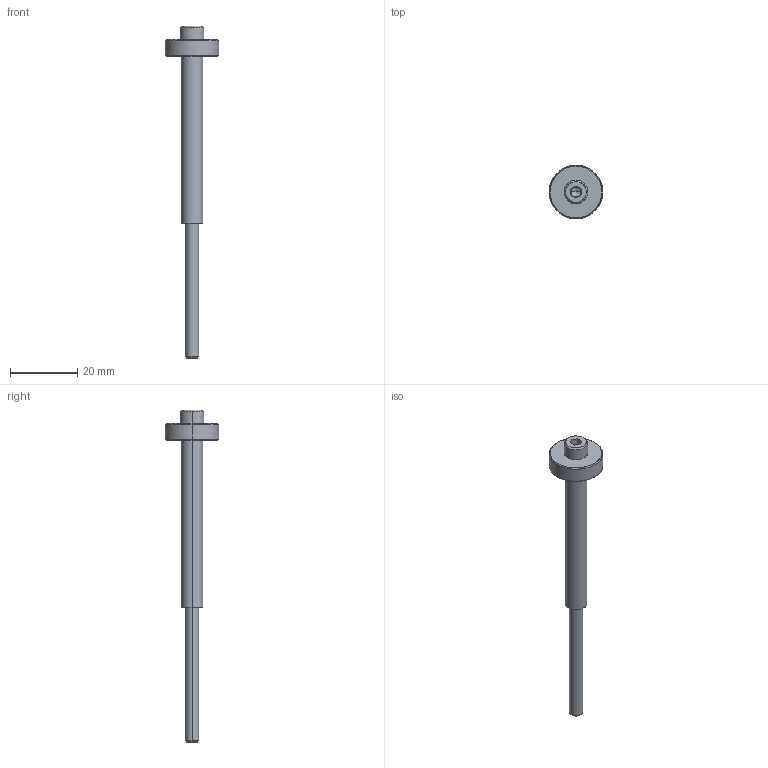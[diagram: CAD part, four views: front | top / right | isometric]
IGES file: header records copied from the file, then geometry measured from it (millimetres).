
Global section: file name: E:\UnigraphicsGraphicData\MISUMI_PRESS-PARTS\IGES\3d_sbrh6.5-50-95-16_05053_r00.igs; native system: NX V5.0; preprocessor: UGS NX IGES V5.0; author: MISUMI; date: 20110105.162430; units: millimetre
Bounding box: 16 x 15.98 x 99 mm (x, y, z)
Surface area: 3725.1 mm2 (no closed solid volume)
Topology: 0 solids, 0 shells, 45 faces, 252 edges, 250 vertices
Faces by surface type: bspline 45
